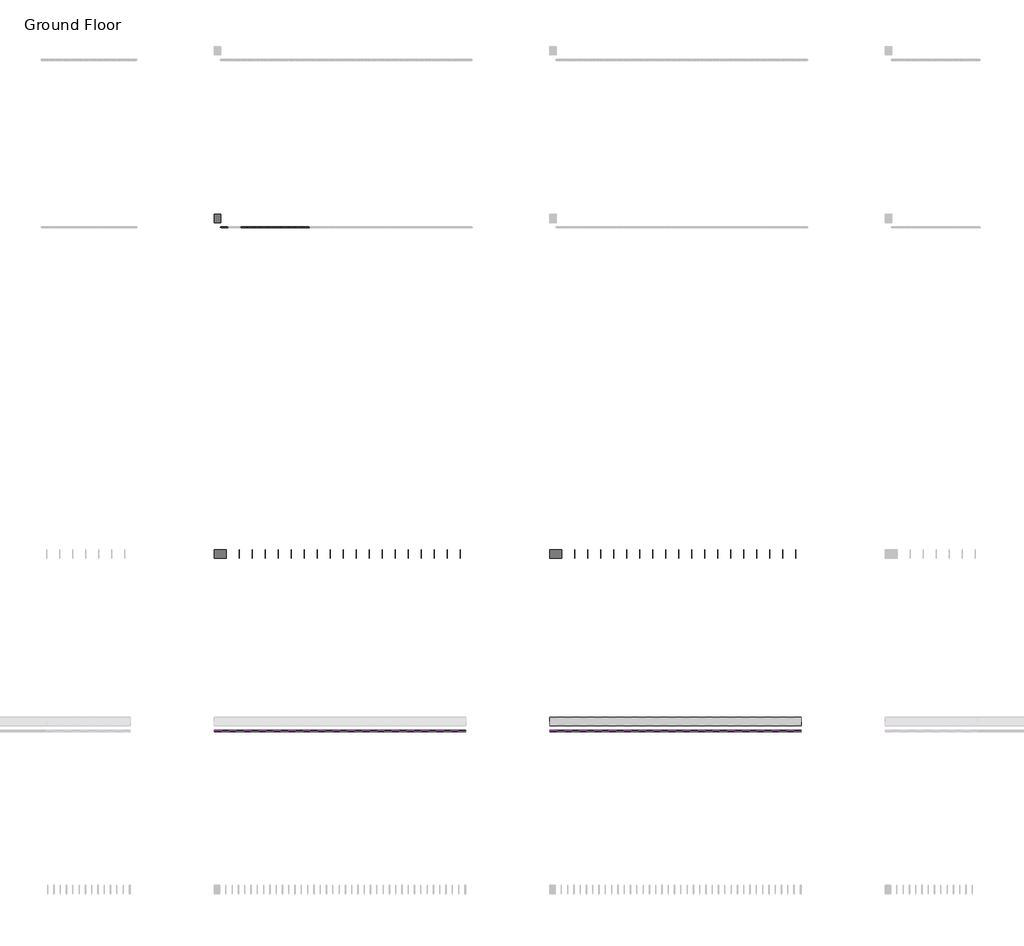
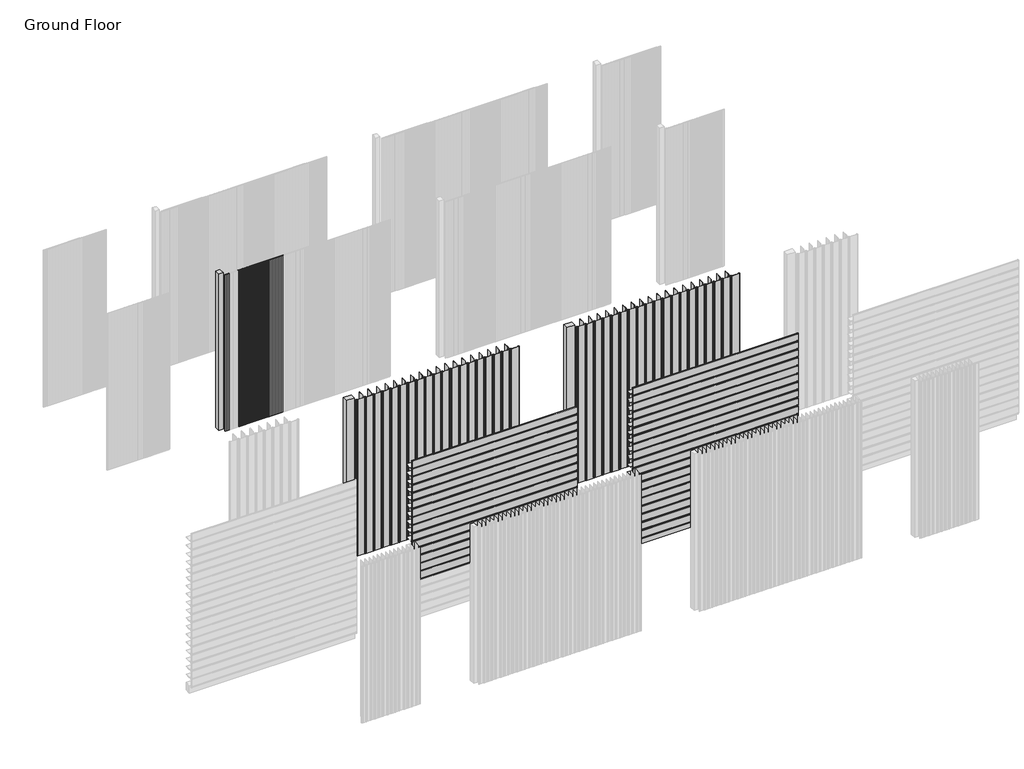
# One storey, part 39 of 350: 83 members, 58 plates.
"""IFC4 building model written with IfcOpenShell, lengths in millimetres."""

from ifc_helpers import new_model, si_unit, origin, place, context, project, spatial, transform, mapped, element, save
from components import rectangular_mullion_a9feb706, rectangular_mullion_4aa68164, empty_system_panel_empty_02c6fd44, empty_system_panel_empty_27b459cb, empty_system_panel_empty_b4bf5bb1, empty_system_panel_empty_81d7e91e, empty_system_panel_empty_cbd4e42b

model = new_model("IFC4")

# Units and contexts
model_context = context("Model", 3, world=origin())
ifc_project = project(units=[si_unit("LENGTHUNIT", "METRE", prefix="MILLI")], contexts=[model_context])

# Site, building, storey
site = spatial("IfcSite", under=ifc_project)
building = spatial("IfcBuilding", under=site)
storey = spatial("IfcBuildingStorey", under=building, Name="Ground Floor", Elevation=0.0)

# Members
placement = place(None, origin())
rectangular_mullion_shape = rectangular_mullion_a9feb706(model_context)
element("IfcMember", 1, ObjectType="Rectangular Mullion : Cladding_Aluminium_Modinex_AluSelekta_Channel_155_TasmanianOak", at=placement, inside=storey, context=model_context, shape_type="MappedRepresentation", body=[
    mapped(rectangular_mullion_shape, transform((47916.4361639, 16968.2978302, 155.0), x_axis=(0.0, 0.0, 1.0), y_axis=(0.0, -1.0, 0.0), z_axis=(1.0, 0.0, 0.0))),
])
element("IfcMember", 2, ObjectType="Rectangular Mullion : Cladding_Aluminium_Modinex_AluSelekta_Channel_155_TasmanianOak", at=placement, inside=storey, context=model_context, shape_type="MappedRepresentation", body=[
    mapped(rectangular_mullion_shape, transform((47916.4361639, 16968.2978302, 310.0), x_axis=(0.0, 0.0, 1.0), y_axis=(0.0, -1.0, 0.0), z_axis=(1.0, 0.0, 0.0))),
])
element("IfcMember", 3, ObjectType="Rectangular Mullion : Cladding_Aluminium_Modinex_AluSelekta_Channel_155_TasmanianOak", at=placement, inside=storey, context=model_context, shape_type="MappedRepresentation", body=[
    mapped(rectangular_mullion_shape, transform((47916.4361639, 16968.2978302, 465.0), x_axis=(0.0, 0.0, 1.0), y_axis=(0.0, -1.0, 0.0), z_axis=(1.0, 0.0, 0.0))),
])
element("IfcMember", 4, ObjectType="Rectangular Mullion : Cladding_Aluminium_Modinex_AluSelekta_Channel_155_TasmanianOak", at=placement, inside=storey, context=model_context, shape_type="MappedRepresentation", body=[
    mapped(rectangular_mullion_shape, transform((47916.4361639, 16968.2978302, 620.0), x_axis=(0.0, 0.0, 1.0), y_axis=(0.0, -1.0, 0.0), z_axis=(1.0, 0.0, 0.0))),
])
element("IfcMember", 5, ObjectType="Rectangular Mullion : Cladding_Aluminium_Modinex_AluSelekta_Channel_155_TasmanianOak", at=placement, inside=storey, context=model_context, shape_type="MappedRepresentation", body=[
    mapped(rectangular_mullion_shape, transform((47916.4361639, 16968.2978302, 775.0), x_axis=(0.0, 0.0, 1.0), y_axis=(0.0, -1.0, 0.0), z_axis=(1.0, 0.0, 0.0))),
])
element("IfcMember", 6, ObjectType="Rectangular Mullion : Cladding_Aluminium_Modinex_AluSelekta_Channel_155_TasmanianOak", at=placement, inside=storey, context=model_context, shape_type="MappedRepresentation", body=[
    mapped(rectangular_mullion_shape, transform((47916.4361639, 16968.2978302, 930.0), x_axis=(0.0, 0.0, 1.0), y_axis=(0.0, -1.0, 0.0), z_axis=(1.0, 0.0, 0.0))),
])
element("IfcMember", 7, ObjectType="Rectangular Mullion : Cladding_Aluminium_Modinex_AluSelekta_Channel_155_TasmanianOak", at=placement, inside=storey, context=model_context, shape_type="MappedRepresentation", body=[
    mapped(rectangular_mullion_shape, transform((47916.4361639, 16968.2978302, 1085.0), x_axis=(0.0, 0.0, 1.0), y_axis=(0.0, -1.0, 0.0), z_axis=(1.0, 0.0, 0.0))),
])
element("IfcMember", 8, ObjectType="Rectangular Mullion : Cladding_Aluminium_Modinex_AluSelekta_Channel_155_TasmanianOak", at=placement, inside=storey, context=model_context, shape_type="MappedRepresentation", body=[
    mapped(rectangular_mullion_shape, transform((47916.4361639, 16968.2978302, 1240.0), x_axis=(0.0, 0.0, 1.0), y_axis=(0.0, -1.0, 0.0), z_axis=(1.0, 0.0, 0.0))),
])
element("IfcMember", 9, ObjectType="Rectangular Mullion : Cladding_Aluminium_Modinex_AluSelekta_Channel_155_TasmanianOak", at=placement, inside=storey, context=model_context, shape_type="MappedRepresentation", body=[
    mapped(rectangular_mullion_shape, transform((47916.4361639, 16968.2978302, 1395.0), x_axis=(0.0, 0.0, 1.0), y_axis=(0.0, -1.0, 0.0), z_axis=(1.0, 0.0, 0.0))),
])
element("IfcMember", 10, ObjectType="Rectangular Mullion : Cladding_Aluminium_Modinex_AluSelekta_Channel_155_TasmanianOak", at=placement, inside=storey, context=model_context, shape_type="MappedRepresentation", body=[
    mapped(rectangular_mullion_shape, transform((47916.4361639, 16968.2978302, 1550.0), x_axis=(0.0, 0.0, 1.0), y_axis=(0.0, -1.0, 0.0), z_axis=(1.0, 0.0, 0.0))),
])
element("IfcMember", 11, ObjectType="Rectangular Mullion : Cladding_Aluminium_Modinex_AluSelekta_Channel_155_TasmanianOak", at=placement, inside=storey, context=model_context, shape_type="MappedRepresentation", body=[
    mapped(rectangular_mullion_shape, transform((47916.4361639, 16968.2978302, 1705.0), x_axis=(0.0, 0.0, 1.0), y_axis=(0.0, -1.0, 0.0), z_axis=(1.0, 0.0, 0.0))),
])
element("IfcMember", 12, ObjectType="Rectangular Mullion : Cladding_Aluminium_Modinex_AluSelekta_Channel_155_TasmanianOak", at=placement, inside=storey, context=model_context, shape_type="MappedRepresentation", body=[
    mapped(rectangular_mullion_shape, transform((47916.4361639, 16968.2978302, 1860.0), x_axis=(0.0, 0.0, 1.0), y_axis=(0.0, -1.0, 0.0), z_axis=(1.0, 0.0, 0.0))),
])
element("IfcMember", 13, ObjectType="Rectangular Mullion : Cladding_Aluminium_Modinex_AluSelekta_Channel_155_TasmanianOak", at=placement, inside=storey, context=model_context, shape_type="MappedRepresentation", body=[
    mapped(rectangular_mullion_shape, transform((47916.4361639, 16968.2978302, 2015.0), x_axis=(0.0, 0.0, 1.0), y_axis=(0.0, -1.0, 0.0), z_axis=(1.0, 0.0, 0.0))),
])
element("IfcMember", 14, ObjectType="Rectangular Mullion : Cladding_Aluminium_Modinex_AluSelekta_Channel_155_TasmanianOak", at=placement, inside=storey, context=model_context, shape_type="MappedRepresentation", body=[
    mapped(rectangular_mullion_shape, transform((47916.4361639, 16968.2978302, 2170.0), x_axis=(0.0, 0.0, 1.0), y_axis=(0.0, -1.0, 0.0), z_axis=(1.0, 0.0, 0.0))),
])
element("IfcMember", 15, ObjectType="Rectangular Mullion : Cladding_Aluminium_Modinex_AluSelekta_Channel_155_TasmanianOak", at=placement, inside=storey, context=model_context, shape_type="MappedRepresentation", body=[
    mapped(rectangular_mullion_shape, transform((47916.4361639, 16968.2978302, 2325.0), x_axis=(0.0, 0.0, 1.0), y_axis=(0.0, -1.0, 0.0), z_axis=(1.0, 0.0, 0.0))),
])
element("IfcMember", 16, ObjectType="Rectangular Mullion : Cladding_Aluminium_Modinex_AluSelekta_Channel_155_TasmanianOak", at=placement, inside=storey, context=model_context, shape_type="MappedRepresentation", body=[
    mapped(rectangular_mullion_shape, transform((47916.4361639, 16968.2978302, 2480.0), x_axis=(0.0, 0.0, 1.0), y_axis=(0.0, -1.0, 0.0), z_axis=(1.0, 0.0, 0.0))),
])
element("IfcMember", 17, ObjectType="Rectangular Mullion : Cladding_Aluminium_Modinex_AluSelekta_Channel_155_TasmanianOak", at=placement, inside=storey, context=model_context, shape_type="MappedRepresentation", body=[
    mapped(rectangular_mullion_shape, transform((47916.4361639, 16968.2978302, 2635.0), x_axis=(0.0, 0.0, 1.0), y_axis=(0.0, -1.0, 0.0), z_axis=(1.0, 0.0, 0.0))),
])
element("IfcMember", 18, ObjectType="Rectangular Mullion : Cladding_Aluminium_Modinex_AluSelekta_Channel_155_TasmanianOak", at=placement, inside=storey, context=model_context, shape_type="MappedRepresentation", body=[
    mapped(rectangular_mullion_shape, transform((47916.4361639, 16968.2978302, 2790.0), x_axis=(0.0, 0.0, 1.0), y_axis=(0.0, -1.0, 0.0), z_axis=(1.0, 0.0, 0.0))),
])
element("IfcMember", 19, ObjectType="Rectangular Mullion : Cladding_Aluminium_Modinex_AluSelekta_Channel_155_TasmanianOak", at=placement, inside=storey, context=model_context, shape_type="MappedRepresentation", body=[
    mapped(rectangular_mullion_shape, transform((47916.4361639, 16968.2978302, 2945.0), x_axis=(0.0, 0.0, 1.0), y_axis=(0.0, -1.0, 0.0), z_axis=(1.0, 0.0, 0.0))),
])
element("IfcMember", 20, ObjectType="Rectangular Mullion : Cladding_Aluminium_Modinex_AluSelekta_Channel_155_TasmanianOak", at=placement, inside=storey, context=model_context, shape_type="MappedRepresentation", body=[
    mapped(rectangular_mullion_shape, transform((45226.4361642, 18968.2978302, 0.0), x_axis=(1.0, 0.0, 0.0), y_axis=(0.0, -1.0, 0.0), z_axis=(0.0, 0.0, -1.0))),
])
element("IfcMember", 21, ObjectType="Rectangular Mullion : Cladding_Aluminium_Modinex_AluSelekta_Channel_155_TasmanianOak", at=placement, inside=storey, context=model_context, shape_type="MappedRepresentation", body=[
    mapped(rectangular_mullion_shape, transform((45381.4361642, 18968.2978302, 0.0), x_axis=(1.0, 0.0, 0.0), y_axis=(0.0, -1.0, 0.0), z_axis=(0.0, 0.0, -1.0))),
])
element("IfcMember", 22, ObjectType="Rectangular Mullion : Cladding_Aluminium_Modinex_AluSelekta_Channel_155_TasmanianOak", at=placement, inside=storey, context=model_context, shape_type="MappedRepresentation", body=[
    mapped(rectangular_mullion_shape, transform((45536.4361642, 18968.2978302, 0.0), x_axis=(1.0, 0.0, 0.0), y_axis=(0.0, -1.0, 0.0), z_axis=(0.0, 0.0, -1.0))),
])
element("IfcMember", 23, ObjectType="Rectangular Mullion : Cladding_Aluminium_Modinex_AluSelekta_Channel_155_TasmanianOak", at=placement, inside=storey, context=model_context, shape_type="MappedRepresentation", body=[
    mapped(rectangular_mullion_shape, transform((45691.4361642, 18968.2978302, 0.0), x_axis=(1.0, 0.0, 0.0), y_axis=(0.0, -1.0, 0.0), z_axis=(0.0, 0.0, -1.0))),
])
element("IfcMember", 24, ObjectType="Rectangular Mullion : Cladding_Aluminium_Modinex_AluSelekta_Channel_155_TasmanianOak", at=placement, inside=storey, context=model_context, shape_type="MappedRepresentation", body=[
    mapped(rectangular_mullion_shape, transform((45846.4361642, 18968.2978302, 0.0), x_axis=(1.0, 0.0, 0.0), y_axis=(0.0, -1.0, 0.0), z_axis=(0.0, 0.0, -1.0))),
])
element("IfcMember", 25, ObjectType="Rectangular Mullion : Cladding_Aluminium_Modinex_AluSelekta_Channel_155_TasmanianOak", at=placement, inside=storey, context=model_context, shape_type="MappedRepresentation", body=[
    mapped(rectangular_mullion_shape, transform((46001.4361642, 18968.2978302, 0.0), x_axis=(1.0, 0.0, 0.0), y_axis=(0.0, -1.0, 0.0), z_axis=(0.0, 0.0, -1.0))),
])
element("IfcMember", 26, ObjectType="Rectangular Mullion : Cladding_Aluminium_Modinex_AluSelekta_Channel_155_TasmanianOak", at=placement, inside=storey, context=model_context, shape_type="MappedRepresentation", body=[
    mapped(rectangular_mullion_shape, transform((46156.4361642, 18968.2978302, 0.0), x_axis=(1.0, 0.0, 0.0), y_axis=(0.0, -1.0, 0.0), z_axis=(0.0, 0.0, -1.0))),
])
element("IfcMember", 27, ObjectType="Rectangular Mullion : Cladding_Aluminium_Modinex_AluSelekta_Channel_155_TasmanianOak", at=placement, inside=storey, context=model_context, shape_type="MappedRepresentation", body=[
    mapped(rectangular_mullion_shape, transform((46311.4361642, 18968.2978302, 0.0), x_axis=(1.0, 0.0, 0.0), y_axis=(0.0, -1.0, 0.0), z_axis=(0.0, 0.0, -1.0))),
])
element("IfcMember", 28, ObjectType="Rectangular Mullion : Cladding_Aluminium_Modinex_AluSelekta_Channel_155_TasmanianOak", at=placement, inside=storey, context=model_context, shape_type="MappedRepresentation", body=[
    mapped(rectangular_mullion_shape, transform((46466.4361642, 18968.2978302, 0.0), x_axis=(1.0, 0.0, 0.0), y_axis=(0.0, -1.0, 0.0), z_axis=(0.0, 0.0, -1.0))),
])
element("IfcMember", 29, ObjectType="Rectangular Mullion : Cladding_Aluminium_Modinex_AluSelekta_Channel_155_TasmanianOak", at=placement, inside=storey, context=model_context, shape_type="MappedRepresentation", body=[
    mapped(rectangular_mullion_shape, transform((46621.4361642, 18968.2978302, 0.0), x_axis=(1.0, 0.0, 0.0), y_axis=(0.0, -1.0, 0.0), z_axis=(0.0, 0.0, -1.0))),
])
element("IfcMember", 30, ObjectType="Rectangular Mullion : Cladding_Aluminium_Modinex_AluSelekta_Channel_155_TasmanianOak", at=placement, inside=storey, context=model_context, shape_type="MappedRepresentation", body=[
    mapped(rectangular_mullion_shape, transform((46776.4361642, 18968.2978302, 0.0), x_axis=(1.0, 0.0, 0.0), y_axis=(0.0, -1.0, 0.0), z_axis=(0.0, 0.0, -1.0))),
])
element("IfcMember", 31, ObjectType="Rectangular Mullion : Cladding_Aluminium_Modinex_AluSelekta_Channel_155_TasmanianOak", at=placement, inside=storey, context=model_context, shape_type="MappedRepresentation", body=[
    mapped(rectangular_mullion_shape, transform((46931.4361642, 18968.2978302, 0.0), x_axis=(1.0, 0.0, 0.0), y_axis=(0.0, -1.0, 0.0), z_axis=(0.0, 0.0, -1.0))),
])
element("IfcMember", 32, ObjectType="Rectangular Mullion : Cladding_Aluminium_Modinex_AluSelekta_Channel_155_TasmanianOak", at=placement, inside=storey, context=model_context, shape_type="MappedRepresentation", body=[
    mapped(rectangular_mullion_shape, transform((47086.4361642, 18968.2978302, 0.0), x_axis=(1.0, 0.0, 0.0), y_axis=(0.0, -1.0, 0.0), z_axis=(0.0, 0.0, -1.0))),
])
element("IfcMember", 33, ObjectType="Rectangular Mullion : Cladding_Aluminium_Modinex_AluSelekta_Channel_155_TasmanianOak", at=placement, inside=storey, context=model_context, shape_type="MappedRepresentation", body=[
    mapped(rectangular_mullion_shape, transform((47241.4361642, 18968.2978302, 0.0), x_axis=(1.0, 0.0, 0.0), y_axis=(0.0, -1.0, 0.0), z_axis=(0.0, 0.0, -1.0))),
])
element("IfcMember", 34, ObjectType="Rectangular Mullion : Cladding_Aluminium_Modinex_AluSelekta_Channel_155_TasmanianOak", at=placement, inside=storey, context=model_context, shape_type="MappedRepresentation", body=[
    mapped(rectangular_mullion_shape, transform((47396.4361642, 18968.2978302, 0.0), x_axis=(1.0, 0.0, 0.0), y_axis=(0.0, -1.0, 0.0), z_axis=(0.0, 0.0, -1.0))),
])
element("IfcMember", 35, ObjectType="Rectangular Mullion : Cladding_Aluminium_Modinex_AluSelekta_Channel_155_TasmanianOak", at=placement, inside=storey, context=model_context, shape_type="MappedRepresentation", body=[
    mapped(rectangular_mullion_shape, transform((47551.4361642, 18968.2978302, 0.0), x_axis=(1.0, 0.0, 0.0), y_axis=(0.0, -1.0, 0.0), z_axis=(0.0, 0.0, -1.0))),
])
element("IfcMember", 36, ObjectType="Rectangular Mullion : Cladding_Aluminium_Modinex_AluSelekta_Channel_155_TasmanianOak", at=placement, inside=storey, context=model_context, shape_type="MappedRepresentation", body=[
    mapped(rectangular_mullion_shape, transform((47706.4361642, 18968.2978302, 0.0), x_axis=(1.0, 0.0, 0.0), y_axis=(0.0, -1.0, 0.0), z_axis=(0.0, 0.0, -1.0))),
])
element("IfcMember", 37, ObjectType="Rectangular Mullion : Cladding_Aluminium_Modinex_AluSelekta_Channel_155_TasmanianOak", at=placement, inside=storey, context=model_context, shape_type="MappedRepresentation", body=[
    mapped(rectangular_mullion_shape, transform((47861.4361642, 18968.2978302, 0.0), x_axis=(1.0, 0.0, 0.0), y_axis=(0.0, -1.0, 0.0), z_axis=(0.0, 0.0, -1.0))),
])
element("IfcMember", 38, ObjectType="Rectangular Mullion : Cladding_Aluminium_Modinex_AluSelekta_Channel_155_TasmanianOak", at=placement, inside=storey, context=model_context, shape_type="MappedRepresentation", body=[
    mapped(rectangular_mullion_shape, transform((45071.4361642, 18968.2978302, 0.0), x_axis=(1.0, 0.0, 0.0), y_axis=(0.0, -1.0, 0.0), z_axis=(0.0, 0.0, -1.0))),
])
element("IfcMember", 39, ObjectType="Rectangular Mullion : Cladding_Aluminium_Modinex_AluSelekta_Channel_155_SpottedGum", at=placement, inside=storey, context=model_context, shape_type="MappedRepresentation", body=[
    mapped(rectangular_mullion_shape, transform((43916.4361639, 16968.2978302, 775.0), x_axis=(0.0, 0.0, 1.0), y_axis=(0.0, -1.0, 0.0), z_axis=(1.0, 0.0, 0.0))),
])
element("IfcMember", 40, ObjectType="Rectangular Mullion : Cladding_Aluminium_Modinex_AluSelekta_Channel_155_SpottedGum", at=placement, inside=storey, context=model_context, shape_type="MappedRepresentation", body=[
    mapped(rectangular_mullion_shape, transform((43916.4361639, 16968.2978302, 930.0), x_axis=(0.0, 0.0, 1.0), y_axis=(0.0, -1.0, 0.0), z_axis=(1.0, 0.0, 0.0))),
])
element("IfcMember", 41, ObjectType="Rectangular Mullion : Cladding_Aluminium_Modinex_AluSelekta_Channel_155_SpottedGum", at=placement, inside=storey, context=model_context, shape_type="MappedRepresentation", body=[
    mapped(rectangular_mullion_shape, transform((43916.4361639, 16968.2978302, 1085.0), x_axis=(0.0, 0.0, 1.0), y_axis=(0.0, -1.0, 0.0), z_axis=(1.0, 0.0, 0.0))),
])
element("IfcMember", 42, ObjectType="Rectangular Mullion : Cladding_Aluminium_Modinex_AluSelekta_Channel_155_SpottedGum", at=placement, inside=storey, context=model_context, shape_type="MappedRepresentation", body=[
    mapped(rectangular_mullion_shape, transform((43916.4361639, 16968.2978302, 1240.0), x_axis=(0.0, 0.0, 1.0), y_axis=(0.0, -1.0, 0.0), z_axis=(1.0, 0.0, 0.0))),
])
element("IfcMember", 43, ObjectType="Rectangular Mullion : Cladding_Aluminium_Modinex_AluSelekta_Channel_155_SpottedGum", at=placement, inside=storey, context=model_context, shape_type="MappedRepresentation", body=[
    mapped(rectangular_mullion_shape, transform((43916.4361639, 16968.2978302, 1395.0), x_axis=(0.0, 0.0, 1.0), y_axis=(0.0, -1.0, 0.0), z_axis=(1.0, 0.0, 0.0))),
])
element("IfcMember", 44, ObjectType="Rectangular Mullion : Cladding_Aluminium_Modinex_AluSelekta_Channel_155_SpottedGum", at=placement, inside=storey, context=model_context, shape_type="MappedRepresentation", body=[
    mapped(rectangular_mullion_shape, transform((43916.4361639, 16968.2978302, 1550.0), x_axis=(0.0, 0.0, 1.0), y_axis=(0.0, -1.0, 0.0), z_axis=(1.0, 0.0, 0.0))),
])
element("IfcMember", 45, ObjectType="Rectangular Mullion : Cladding_Aluminium_Modinex_AluSelekta_Channel_155_SpottedGum", at=placement, inside=storey, context=model_context, shape_type="MappedRepresentation", body=[
    mapped(rectangular_mullion_shape, transform((43916.4361639, 16968.2978302, 1705.0), x_axis=(0.0, 0.0, 1.0), y_axis=(0.0, -1.0, 0.0), z_axis=(1.0, 0.0, 0.0))),
])
element("IfcMember", 46, ObjectType="Rectangular Mullion : Cladding_Aluminium_Modinex_AluSelekta_Channel_155_SpottedGum", at=placement, inside=storey, context=model_context, shape_type="MappedRepresentation", body=[
    mapped(rectangular_mullion_shape, transform((43916.4361639, 16968.2978302, 1860.0), x_axis=(0.0, 0.0, 1.0), y_axis=(0.0, -1.0, 0.0), z_axis=(1.0, 0.0, 0.0))),
])
element("IfcMember", 47, ObjectType="Rectangular Mullion : Cladding_Aluminium_Modinex_AluSelekta_Channel_155_SpottedGum", at=placement, inside=storey, context=model_context, shape_type="MappedRepresentation", body=[
    mapped(rectangular_mullion_shape, transform((43916.4361639, 16968.2978302, 2015.0), x_axis=(0.0, 0.0, 1.0), y_axis=(0.0, -1.0, 0.0), z_axis=(1.0, 0.0, 0.0))),
])
element("IfcMember", 48, ObjectType="Rectangular Mullion : Cladding_Aluminium_Modinex_AluSelekta_Channel_155_SpottedGum", at=placement, inside=storey, context=model_context, shape_type="MappedRepresentation", body=[
    mapped(rectangular_mullion_shape, transform((43916.4361639, 16968.2978302, 2170.0), x_axis=(0.0, 0.0, 1.0), y_axis=(0.0, -1.0, 0.0), z_axis=(1.0, 0.0, 0.0))),
])
element("IfcMember", 49, ObjectType="Rectangular Mullion : Cladding_Aluminium_Modinex_AluSelekta_Channel_155_SpottedGum", at=placement, inside=storey, context=model_context, shape_type="MappedRepresentation", body=[
    mapped(rectangular_mullion_shape, transform((43916.4361639, 16968.2978302, 2325.0), x_axis=(0.0, 0.0, 1.0), y_axis=(0.0, -1.0, 0.0), z_axis=(1.0, 0.0, 0.0))),
])
element("IfcMember", 50, ObjectType="Rectangular Mullion : Cladding_Aluminium_Modinex_AluSelekta_Channel_155_SpottedGum", at=placement, inside=storey, context=model_context, shape_type="MappedRepresentation", body=[
    mapped(rectangular_mullion_shape, transform((43916.4361639, 16968.2978302, 2480.0), x_axis=(0.0, 0.0, 1.0), y_axis=(0.0, -1.0, 0.0), z_axis=(1.0, 0.0, 0.0))),
])
element("IfcMember", 51, ObjectType="Rectangular Mullion : Cladding_Aluminium_Modinex_AluSelekta_Channel_155_SpottedGum", at=placement, inside=storey, context=model_context, shape_type="MappedRepresentation", body=[
    mapped(rectangular_mullion_shape, transform((43916.4361639, 16968.2978302, 2635.0), x_axis=(0.0, 0.0, 1.0), y_axis=(0.0, -1.0, 0.0), z_axis=(1.0, 0.0, 0.0))),
])
element("IfcMember", 52, ObjectType="Rectangular Mullion : Cladding_Aluminium_Modinex_AluSelekta_Channel_155_SpottedGum", at=placement, inside=storey, context=model_context, shape_type="MappedRepresentation", body=[
    mapped(rectangular_mullion_shape, transform((43916.4361639, 16968.2978302, 2790.0), x_axis=(0.0, 0.0, 1.0), y_axis=(0.0, -1.0, 0.0), z_axis=(1.0, 0.0, 0.0))),
])
element("IfcMember", 53, ObjectType="Rectangular Mullion : Cladding_Aluminium_Modinex_AluSelekta_Channel_155_SpottedGum", at=placement, inside=storey, context=model_context, shape_type="MappedRepresentation", body=[
    mapped(rectangular_mullion_shape, transform((43916.4361639, 16968.2978302, 2945.0), x_axis=(0.0, 0.0, 1.0), y_axis=(0.0, -1.0, 0.0), z_axis=(1.0, 0.0, 0.0))),
])
element("IfcMember", 54, ObjectType="Rectangular Mullion : Cladding_Aluminium_Modinex_AluSelekta_Channel_155_SpottedGum", at=placement, inside=storey, context=model_context, shape_type="MappedRepresentation", body=[
    mapped(rectangular_mullion_shape, transform((41226.4361642, 18968.2978302, 0.0), x_axis=(1.0, 0.0, 0.0), y_axis=(0.0, -1.0, 0.0), z_axis=(0.0, 0.0, -1.0))),
])
element("IfcMember", 55, ObjectType="Rectangular Mullion : Cladding_Aluminium_Modinex_AluSelekta_Channel_155_SpottedGum", at=placement, inside=storey, context=model_context, shape_type="MappedRepresentation", body=[
    mapped(rectangular_mullion_shape, transform((41381.4361642, 18968.2978302, 0.0), x_axis=(1.0, 0.0, 0.0), y_axis=(0.0, -1.0, 0.0), z_axis=(0.0, 0.0, -1.0))),
])
element("IfcMember", 56, ObjectType="Rectangular Mullion : Cladding_Aluminium_Modinex_AluSelekta_Channel_155_SpottedGum", at=placement, inside=storey, context=model_context, shape_type="MappedRepresentation", body=[
    mapped(rectangular_mullion_shape, transform((41536.4361642, 18968.2978302, 0.0), x_axis=(1.0, 0.0, 0.0), y_axis=(0.0, -1.0, 0.0), z_axis=(0.0, 0.0, -1.0))),
])
element("IfcMember", 57, ObjectType="Rectangular Mullion : Cladding_Aluminium_Modinex_AluSelekta_Channel_155_SpottedGum", at=placement, inside=storey, context=model_context, shape_type="MappedRepresentation", body=[
    mapped(rectangular_mullion_shape, transform((41691.4361642, 18968.2978302, 0.0), x_axis=(1.0, 0.0, 0.0), y_axis=(0.0, -1.0, 0.0), z_axis=(0.0, 0.0, -1.0))),
])
element("IfcMember", 58, ObjectType="Rectangular Mullion : Cladding_Aluminium_Modinex_AluSelekta_Channel_155_SpottedGum", at=placement, inside=storey, context=model_context, shape_type="MappedRepresentation", body=[
    mapped(rectangular_mullion_shape, transform((41846.4361642, 18968.2978302, 0.0), x_axis=(1.0, 0.0, 0.0), y_axis=(0.0, -1.0, 0.0), z_axis=(0.0, 0.0, -1.0))),
])
element("IfcMember", 59, ObjectType="Rectangular Mullion : Cladding_Aluminium_Modinex_AluSelekta_Channel_155_SpottedGum", at=placement, inside=storey, context=model_context, shape_type="MappedRepresentation", body=[
    mapped(rectangular_mullion_shape, transform((42001.4361642, 18968.2978302, 0.0), x_axis=(1.0, 0.0, 0.0), y_axis=(0.0, -1.0, 0.0), z_axis=(0.0, 0.0, -1.0))),
])
element("IfcMember", 60, ObjectType="Rectangular Mullion : Cladding_Aluminium_Modinex_AluSelekta_Channel_155_SpottedGum", at=placement, inside=storey, context=model_context, shape_type="MappedRepresentation", body=[
    mapped(rectangular_mullion_shape, transform((42156.4361642, 18968.2978302, 0.0), x_axis=(1.0, 0.0, 0.0), y_axis=(0.0, -1.0, 0.0), z_axis=(0.0, 0.0, -1.0))),
])
element("IfcMember", 61, ObjectType="Rectangular Mullion : Cladding_Aluminium_Modinex_AluSelekta_Channel_155_SpottedGum", at=placement, inside=storey, context=model_context, shape_type="MappedRepresentation", body=[
    mapped(rectangular_mullion_shape, transform((42311.4361642, 18968.2978302, 0.0), x_axis=(1.0, 0.0, 0.0), y_axis=(0.0, -1.0, 0.0), z_axis=(0.0, 0.0, -1.0))),
])
element("IfcMember", 62, ObjectType="Rectangular Mullion : Cladding_Aluminium_Modinex_AluSelekta_Channel_155_SpottedGum", at=placement, inside=storey, context=model_context, shape_type="MappedRepresentation", body=[
    mapped(rectangular_mullion_shape, transform((42466.4361642, 18968.2978302, 0.0), x_axis=(1.0, 0.0, 0.0), y_axis=(0.0, -1.0, 0.0), z_axis=(0.0, 0.0, -1.0))),
])
element("IfcMember", 63, ObjectType="Rectangular Mullion : Cladding_Aluminium_Modinex_AluSelekta_Channel_155_SpottedGum", at=placement, inside=storey, context=model_context, shape_type="MappedRepresentation", body=[
    mapped(rectangular_mullion_shape, transform((42621.4361642, 18968.2978302, 0.0), x_axis=(1.0, 0.0, 0.0), y_axis=(0.0, -1.0, 0.0), z_axis=(0.0, 0.0, -1.0))),
])
element("IfcMember", 64, ObjectType="Rectangular Mullion : Cladding_Aluminium_Modinex_AluSelekta_Channel_155_SpottedGum", at=placement, inside=storey, context=model_context, shape_type="MappedRepresentation", body=[
    mapped(rectangular_mullion_shape, transform((42776.4361642, 18968.2978302, 0.0), x_axis=(1.0, 0.0, 0.0), y_axis=(0.0, -1.0, 0.0), z_axis=(0.0, 0.0, -1.0))),
])
element("IfcMember", 65, ObjectType="Rectangular Mullion : Cladding_Aluminium_Modinex_AluSelekta_Channel_155_SpottedGum", at=placement, inside=storey, context=model_context, shape_type="MappedRepresentation", body=[
    mapped(rectangular_mullion_shape, transform((42931.4361642, 18968.2978302, 0.0), x_axis=(1.0, 0.0, 0.0), y_axis=(0.0, -1.0, 0.0), z_axis=(0.0, 0.0, -1.0))),
])
element("IfcMember", 66, ObjectType="Rectangular Mullion : Cladding_Aluminium_Modinex_AluSelekta_Channel_155_SpottedGum", at=placement, inside=storey, context=model_context, shape_type="MappedRepresentation", body=[
    mapped(rectangular_mullion_shape, transform((43086.4361642, 18968.2978302, 0.0), x_axis=(1.0, 0.0, 0.0), y_axis=(0.0, -1.0, 0.0), z_axis=(0.0, 0.0, -1.0))),
])
element("IfcMember", 67, ObjectType="Rectangular Mullion : Cladding_Aluminium_Modinex_AluSelekta_Channel_155_SpottedGum", at=placement, inside=storey, context=model_context, shape_type="MappedRepresentation", body=[
    mapped(rectangular_mullion_shape, transform((43241.4361642, 18968.2978302, 0.0), x_axis=(1.0, 0.0, 0.0), y_axis=(0.0, -1.0, 0.0), z_axis=(0.0, 0.0, -1.0))),
])
element("IfcMember", 68, ObjectType="Rectangular Mullion : Cladding_Aluminium_Modinex_AluSelekta_Channel_155_SpottedGum", at=placement, inside=storey, context=model_context, shape_type="MappedRepresentation", body=[
    mapped(rectangular_mullion_shape, transform((43396.4361642, 18968.2978302, 0.0), x_axis=(1.0, 0.0, 0.0), y_axis=(0.0, -1.0, 0.0), z_axis=(0.0, 0.0, -1.0))),
])
element("IfcMember", 69, ObjectType="Rectangular Mullion : Cladding_Aluminium_Modinex_AluSelekta_Channel_155_SpottedGum", at=placement, inside=storey, context=model_context, shape_type="MappedRepresentation", body=[
    mapped(rectangular_mullion_shape, transform((43551.4361642, 18968.2978302, 0.0), x_axis=(1.0, 0.0, 0.0), y_axis=(0.0, -1.0, 0.0), z_axis=(0.0, 0.0, -1.0))),
])
element("IfcMember", 70, ObjectType="Rectangular Mullion : Cladding_Aluminium_Modinex_AluSelekta_Channel_155_SpottedGum", at=placement, inside=storey, context=model_context, shape_type="MappedRepresentation", body=[
    mapped(rectangular_mullion_shape, transform((43706.4361642, 18968.2978302, 0.0), x_axis=(1.0, 0.0, 0.0), y_axis=(0.0, -1.0, 0.0), z_axis=(0.0, 0.0, -1.0))),
])
element("IfcMember", 71, ObjectType="Rectangular Mullion : Cladding_Aluminium_Modinex_AluSelekta_Channel_155_SpottedGum", at=placement, inside=storey, context=model_context, shape_type="MappedRepresentation", body=[
    mapped(rectangular_mullion_shape, transform((43861.4361642, 18968.2978302, 0.0), x_axis=(1.0, 0.0, 0.0), y_axis=(0.0, -1.0, 0.0), z_axis=(0.0, 0.0, -1.0))),
])
element("IfcMember", 72, ObjectType="Rectangular Mullion : Cladding_Aluminium_Modinex_AluSelekta_Channel_155_SpottedGum", at=placement, inside=storey, context=model_context, shape_type="MappedRepresentation", body=[
    mapped(rectangular_mullion_shape, transform((41071.4361642, 18968.2978302, 0.0), x_axis=(1.0, 0.0, 0.0), y_axis=(0.0, -1.0, 0.0), z_axis=(0.0, 0.0, -1.0))),
])
rectangular_mullion_2_shape = rectangular_mullion_4aa68164(model_context)
element("IfcMember", 73, ObjectType="Rectangular Mullion : Cladding_Timber_Modinex_Castelation_81x12_Ironbark", at=placement, inside=storey, context=model_context, shape_type="MappedRepresentation", body=[
    mapped(rectangular_mullion_2_shape, transform((41969.4361642, 22968.2978302, 0.0), x_axis=(1.0, 0.0, 0.0), y_axis=(0.0, -1.0, 0.0), z_axis=(0.0, 0.0, -1.0))),
])
element("IfcMember", 74, ObjectType="Rectangular Mullion : Cladding_Timber_Modinex_Castelation_81x12_Ironbark", at=placement, inside=storey, context=model_context, shape_type="MappedRepresentation", body=[
    mapped(rectangular_mullion_2_shape, transform((41888.4361642, 22968.2978302, 0.0), x_axis=(1.0, 0.0, 0.0), y_axis=(0.0, -1.0, 0.0), z_axis=(0.0, 0.0, -1.0))),
])
element("IfcMember", 75, ObjectType="Rectangular Mullion : Cladding_Timber_Modinex_Castelation_81x12_Ironbark", at=placement, inside=storey, context=model_context, shape_type="MappedRepresentation", body=[
    mapped(rectangular_mullion_2_shape, transform((41807.4361642, 22968.2978302, 0.0), x_axis=(1.0, 0.0, 0.0), y_axis=(0.0, -1.0, 0.0), z_axis=(0.0, 0.0, -1.0))),
])
element("IfcMember", 76, ObjectType="Rectangular Mullion : Cladding_Timber_Modinex_Castelation_81x12_Ironbark", at=placement, inside=storey, context=model_context, shape_type="MappedRepresentation", body=[
    mapped(rectangular_mullion_2_shape, transform((41726.4361642, 22968.2978302, 0.0), x_axis=(1.0, 0.0, 0.0), y_axis=(0.0, -1.0, 0.0), z_axis=(0.0, 0.0, -1.0))),
])
element("IfcMember", 77, ObjectType="Rectangular Mullion : Cladding_Timber_Modinex_Castelation_81x12_Ironbark", at=placement, inside=storey, context=model_context, shape_type="MappedRepresentation", body=[
    mapped(rectangular_mullion_2_shape, transform((41645.4361642, 22968.2978302, 0.0), x_axis=(1.0, 0.0, 0.0), y_axis=(0.0, -1.0, 0.0), z_axis=(0.0, 0.0, -1.0))),
])
element("IfcMember", 78, ObjectType="Rectangular Mullion : Cladding_Timber_Modinex_Castelation_81x12_Ironbark", at=placement, inside=storey, context=model_context, shape_type="MappedRepresentation", body=[
    mapped(rectangular_mullion_2_shape, transform((41564.4361642, 22968.2978302, 0.0), x_axis=(1.0, 0.0, 0.0), y_axis=(0.0, -1.0, 0.0), z_axis=(0.0, 0.0, -1.0))),
])
element("IfcMember", 79, ObjectType="Rectangular Mullion : Cladding_Timber_Modinex_Castelation_81x12_Ironbark", at=placement, inside=storey, context=model_context, shape_type="MappedRepresentation", body=[
    mapped(rectangular_mullion_2_shape, transform((41483.4361642, 22968.2978302, 0.0), x_axis=(1.0, 0.0, 0.0), y_axis=(0.0, -1.0, 0.0), z_axis=(0.0, 0.0, -1.0))),
])
element("IfcMember", 80, ObjectType="Rectangular Mullion : Cladding_Timber_Modinex_Castelation_81x12_Ironbark", at=placement, inside=storey, context=model_context, shape_type="MappedRepresentation", body=[
    mapped(rectangular_mullion_2_shape, transform((41402.4361642, 22968.2978302, 0.0), x_axis=(1.0, 0.0, 0.0), y_axis=(0.0, -1.0, 0.0), z_axis=(0.0, 0.0, -1.0))),
])
element("IfcMember", 81, ObjectType="Rectangular Mullion : Cladding_Timber_Modinex_Castelation_81x12_Ironbark", at=placement, inside=storey, context=model_context, shape_type="MappedRepresentation", body=[
    mapped(rectangular_mullion_2_shape, transform((41321.4361642, 22968.2978302, 0.0), x_axis=(1.0, 0.0, 0.0), y_axis=(0.0, -1.0, 0.0), z_axis=(0.0, 0.0, -1.0))),
])
element("IfcMember", 82, ObjectType="Rectangular Mullion : Cladding_Timber_Modinex_Castelation_81x12_Ironbark", at=placement, inside=storey, context=model_context, shape_type="MappedRepresentation", body=[
    mapped(rectangular_mullion_2_shape, transform((41240.4361642, 22968.2978302, 0.0), x_axis=(1.0, 0.0, 0.0), y_axis=(0.0, -1.0, 0.0), z_axis=(0.0, 0.0, -1.0))),
])
element("IfcMember", 83, ObjectType="Rectangular Mullion : Cladding_Timber_Modinex_Castelation_81x12_Ironbark", at=placement, inside=storey, context=model_context, shape_type="MappedRepresentation", body=[
    mapped(rectangular_mullion_2_shape, transform((40997.4361642, 22968.2978302, 0.0), x_axis=(1.0, 0.0, 0.0), y_axis=(0.0, -1.0, 0.0), z_axis=(0.0, 0.0, -1.0))),
])

# Plates
empty_system_panel_empty_shape = empty_system_panel_empty_02c6fd44(model_context)
element("IfcPlate", 84, ObjectType="Empty System Panel : Empty", at=placement, inside=storey, context=model_context, shape_type="MappedRepresentation", body=[
    mapped(empty_system_panel_empty_shape, transform((46416.4361639, 16968.2978302, 297.2580963), x_axis=(1.0, 0.0, 0.0), y_axis=(0.0, 1.0, 0.0), z_axis=(0.0, 0.0, 1.0))),
])
element("IfcPlate", 85, ObjectType="Empty System Panel : Empty", at=placement, inside=storey, context=model_context, shape_type="MappedRepresentation", body=[
    mapped(empty_system_panel_empty_shape, transform((46416.4361639, 16968.2978302, 452.2580963), x_axis=(1.0, 0.0, 0.0), y_axis=(0.0, 1.0, 0.0), z_axis=(0.0, 0.0, 1.0))),
])
element("IfcPlate", 86, ObjectType="Empty System Panel : Empty", at=placement, inside=storey, context=model_context, shape_type="MappedRepresentation", body=[
    mapped(empty_system_panel_empty_shape, transform((46416.4361639, 16968.2978302, 607.2580963), x_axis=(1.0, 0.0, 0.0), y_axis=(0.0, 1.0, 0.0), z_axis=(0.0, 0.0, 1.0))),
])
element("IfcPlate", 87, ObjectType="Empty System Panel : Empty", at=placement, inside=storey, context=model_context, shape_type="MappedRepresentation", body=[
    mapped(empty_system_panel_empty_shape, transform((46416.4361639, 16968.2978302, 762.2580963), x_axis=(1.0, 0.0, 0.0), y_axis=(0.0, 1.0, 0.0), z_axis=(0.0, 0.0, 1.0))),
])
element("IfcPlate", 88, ObjectType="Empty System Panel : Empty", at=placement, inside=storey, context=model_context, shape_type="MappedRepresentation", body=[
    mapped(empty_system_panel_empty_shape, transform((46416.4361639, 16968.2978302, 917.2580963), x_axis=(1.0, 0.0, 0.0), y_axis=(0.0, 1.0, 0.0), z_axis=(0.0, 0.0, 1.0))),
])
element("IfcPlate", 89, ObjectType="Empty System Panel : Empty", at=placement, inside=storey, context=model_context, shape_type="MappedRepresentation", body=[
    mapped(empty_system_panel_empty_shape, transform((46416.4361639, 16968.2978302, 1072.2580963), x_axis=(1.0, 0.0, 0.0), y_axis=(0.0, 1.0, 0.0), z_axis=(0.0, 0.0, 1.0))),
])
element("IfcPlate", 90, ObjectType="Empty System Panel : Empty", at=placement, inside=storey, context=model_context, shape_type="MappedRepresentation", body=[
    mapped(empty_system_panel_empty_shape, transform((46416.4361639, 16968.2978302, 1227.2580963), x_axis=(1.0, 0.0, 0.0), y_axis=(0.0, 1.0, 0.0), z_axis=(0.0, 0.0, 1.0))),
])
element("IfcPlate", 91, ObjectType="Empty System Panel : Empty", at=placement, inside=storey, context=model_context, shape_type="MappedRepresentation", body=[
    mapped(empty_system_panel_empty_shape, transform((46416.4361639, 16968.2978302, 1382.2580963), x_axis=(1.0, 0.0, 0.0), y_axis=(0.0, 1.0, 0.0), z_axis=(0.0, 0.0, 1.0))),
])
element("IfcPlate", 92, ObjectType="Empty System Panel : Empty", at=placement, inside=storey, context=model_context, shape_type="MappedRepresentation", body=[
    mapped(empty_system_panel_empty_shape, transform((46416.4361639, 16968.2978302, 1537.2580963), x_axis=(1.0, 0.0, 0.0), y_axis=(0.0, 1.0, 0.0), z_axis=(0.0, 0.0, 1.0))),
])
element("IfcPlate", 93, ObjectType="Empty System Panel : Empty", at=placement, inside=storey, context=model_context, shape_type="MappedRepresentation", body=[
    mapped(empty_system_panel_empty_shape, transform((46416.4361639, 16968.2978302, 1692.2580963), x_axis=(1.0, 0.0, 0.0), y_axis=(0.0, 1.0, 0.0), z_axis=(0.0, 0.0, 1.0))),
])
element("IfcPlate", 94, ObjectType="Empty System Panel : Empty", at=placement, inside=storey, context=model_context, shape_type="MappedRepresentation", body=[
    mapped(empty_system_panel_empty_shape, transform((46416.4361639, 16968.2978302, 1847.2580963), x_axis=(1.0, 0.0, 0.0), y_axis=(0.0, 1.0, 0.0), z_axis=(0.0, 0.0, 1.0))),
])
element("IfcPlate", 95, ObjectType="Empty System Panel : Empty", at=placement, inside=storey, context=model_context, shape_type="MappedRepresentation", body=[
    mapped(empty_system_panel_empty_shape, transform((46416.4361639, 16968.2978302, 2002.2580963), x_axis=(1.0, 0.0, 0.0), y_axis=(0.0, 1.0, 0.0), z_axis=(0.0, 0.0, 1.0))),
])
element("IfcPlate", 96, ObjectType="Empty System Panel : Empty", at=placement, inside=storey, context=model_context, shape_type="MappedRepresentation", body=[
    mapped(empty_system_panel_empty_shape, transform((46416.4361639, 16968.2978302, 2157.2580963), x_axis=(1.0, 0.0, 0.0), y_axis=(0.0, 1.0, 0.0), z_axis=(0.0, 0.0, 1.0))),
])
element("IfcPlate", 97, ObjectType="Empty System Panel : Empty", at=placement, inside=storey, context=model_context, shape_type="MappedRepresentation", body=[
    mapped(empty_system_panel_empty_shape, transform((46416.4361639, 16968.2978302, 2312.2580963), x_axis=(1.0, 0.0, 0.0), y_axis=(0.0, 1.0, 0.0), z_axis=(0.0, 0.0, 1.0))),
])
element("IfcPlate", 98, ObjectType="Empty System Panel : Empty", at=placement, inside=storey, context=model_context, shape_type="MappedRepresentation", body=[
    mapped(empty_system_panel_empty_shape, transform((46416.4361639, 16968.2978302, 2467.2580963), x_axis=(1.0, 0.0, 0.0), y_axis=(0.0, 1.0, 0.0), z_axis=(0.0, 0.0, 1.0))),
])
element("IfcPlate", 99, ObjectType="Empty System Panel : Empty", at=placement, inside=storey, context=model_context, shape_type="MappedRepresentation", body=[
    mapped(empty_system_panel_empty_shape, transform((46416.4361639, 16968.2978302, 2622.2580963), x_axis=(1.0, 0.0, 0.0), y_axis=(0.0, 1.0, 0.0), z_axis=(0.0, 0.0, 1.0))),
])
element("IfcPlate", 100, ObjectType="Empty System Panel : Empty", at=placement, inside=storey, context=model_context, shape_type="MappedRepresentation", body=[
    mapped(empty_system_panel_empty_shape, transform((46416.4361639, 16968.2978302, 2777.2580963), x_axis=(1.0, 0.0, 0.0), y_axis=(0.0, 1.0, 0.0), z_axis=(0.0, 0.0, 1.0))),
])
element("IfcPlate", 101, ObjectType="Empty System Panel : Empty", at=placement, inside=storey, context=model_context, shape_type="MappedRepresentation", body=[
    mapped(empty_system_panel_empty_shape, transform((46416.4361639, 16968.2978302, 2932.2580963), x_axis=(1.0, 0.0, 0.0), y_axis=(0.0, 1.0, 0.0), z_axis=(0.0, 0.0, 1.0))),
])
empty_system_panel_empty_2_shape = empty_system_panel_empty_27b459cb(model_context)
element("IfcPlate", 102, ObjectType="Empty System Panel : Empty", at=placement, inside=storey, context=model_context, shape_type="MappedRepresentation", body=[
    mapped(empty_system_panel_empty_2_shape, transform((41369.9529326, 18968.2978302, 0.0), x_axis=(1.0, 0.0, 0.0), y_axis=(0.0, 1.0, 0.0), z_axis=(0.0, 0.0, 1.0))),
])
element("IfcPlate", 103, ObjectType="Empty System Panel : Empty", at=placement, inside=storey, context=model_context, shape_type="MappedRepresentation", body=[
    mapped(empty_system_panel_empty_2_shape, transform((41524.9529326, 18968.2978302, 0.0), x_axis=(1.0, 0.0, 0.0), y_axis=(0.0, 1.0, 0.0), z_axis=(0.0, 0.0, 1.0))),
])
element("IfcPlate", 104, ObjectType="Empty System Panel : Empty", at=placement, inside=storey, context=model_context, shape_type="MappedRepresentation", body=[
    mapped(empty_system_panel_empty_2_shape, transform((41679.9529326, 18968.2978302, 0.0), x_axis=(1.0, 0.0, 0.0), y_axis=(0.0, 1.0, 0.0), z_axis=(0.0, 0.0, 1.0))),
])
element("IfcPlate", 105, ObjectType="Empty System Panel : Empty", at=placement, inside=storey, context=model_context, shape_type="MappedRepresentation", body=[
    mapped(empty_system_panel_empty_2_shape, transform((41834.9529326, 18968.2978302, 0.0), x_axis=(1.0, 0.0, 0.0), y_axis=(0.0, 1.0, 0.0), z_axis=(0.0, 0.0, 1.0))),
])
element("IfcPlate", 106, ObjectType="Empty System Panel : Empty", at=placement, inside=storey, context=model_context, shape_type="MappedRepresentation", body=[
    mapped(empty_system_panel_empty_2_shape, transform((41989.9529326, 18968.2978302, 0.0), x_axis=(1.0, 0.0, 0.0), y_axis=(0.0, 1.0, 0.0), z_axis=(0.0, 0.0, 1.0))),
])
element("IfcPlate", 107, ObjectType="Empty System Panel : Empty", at=placement, inside=storey, context=model_context, shape_type="MappedRepresentation", body=[
    mapped(empty_system_panel_empty_2_shape, transform((42144.9529326, 18968.2978302, 0.0), x_axis=(1.0, 0.0, 0.0), y_axis=(0.0, 1.0, 0.0), z_axis=(0.0, 0.0, 1.0))),
])
element("IfcPlate", 108, ObjectType="Empty System Panel : Empty", at=placement, inside=storey, context=model_context, shape_type="MappedRepresentation", body=[
    mapped(empty_system_panel_empty_2_shape, transform((42299.9529326, 18968.2978302, 0.0), x_axis=(1.0, 0.0, 0.0), y_axis=(0.0, 1.0, 0.0), z_axis=(0.0, 0.0, 1.0))),
])
element("IfcPlate", 109, ObjectType="Empty System Panel : Empty", at=placement, inside=storey, context=model_context, shape_type="MappedRepresentation", body=[
    mapped(empty_system_panel_empty_2_shape, transform((42454.9529326, 18968.2978302, 0.0), x_axis=(1.0, 0.0, 0.0), y_axis=(0.0, 1.0, 0.0), z_axis=(0.0, 0.0, 1.0))),
])
element("IfcPlate", 110, ObjectType="Empty System Panel : Empty", at=placement, inside=storey, context=model_context, shape_type="MappedRepresentation", body=[
    mapped(empty_system_panel_empty_2_shape, transform((42609.9529326, 18968.2978302, 0.0), x_axis=(1.0, 0.0, 0.0), y_axis=(0.0, 1.0, 0.0), z_axis=(0.0, 0.0, 1.0))),
])
element("IfcPlate", 111, ObjectType="Empty System Panel : Empty", at=placement, inside=storey, context=model_context, shape_type="MappedRepresentation", body=[
    mapped(empty_system_panel_empty_2_shape, transform((42764.9529326, 18968.2978302, 0.0), x_axis=(1.0, 0.0, 0.0), y_axis=(0.0, 1.0, 0.0), z_axis=(0.0, 0.0, 1.0))),
])
element("IfcPlate", 112, ObjectType="Empty System Panel : Empty", at=placement, inside=storey, context=model_context, shape_type="MappedRepresentation", body=[
    mapped(empty_system_panel_empty_2_shape, transform((42919.9529326, 18968.2978302, 0.0), x_axis=(1.0, 0.0, 0.0), y_axis=(0.0, 1.0, 0.0), z_axis=(0.0, 0.0, 1.0))),
])
element("IfcPlate", 113, ObjectType="Empty System Panel : Empty", at=placement, inside=storey, context=model_context, shape_type="MappedRepresentation", body=[
    mapped(empty_system_panel_empty_2_shape, transform((43074.9529326, 18968.2978302, 0.0), x_axis=(1.0, 0.0, 0.0), y_axis=(0.0, 1.0, 0.0), z_axis=(0.0, 0.0, 1.0))),
])
element("IfcPlate", 114, ObjectType="Empty System Panel : Empty", at=placement, inside=storey, context=model_context, shape_type="MappedRepresentation", body=[
    mapped(empty_system_panel_empty_2_shape, transform((43229.9529326, 18968.2978302, 0.0), x_axis=(1.0, 0.0, 0.0), y_axis=(0.0, 1.0, 0.0), z_axis=(0.0, 0.0, 1.0))),
])
element("IfcPlate", 115, ObjectType="Empty System Panel : Empty", at=placement, inside=storey, context=model_context, shape_type="MappedRepresentation", body=[
    mapped(empty_system_panel_empty_2_shape, transform((43384.9529326, 18968.2978302, 0.0), x_axis=(1.0, 0.0, 0.0), y_axis=(0.0, 1.0, 0.0), z_axis=(0.0, 0.0, 1.0))),
])
element("IfcPlate", 116, ObjectType="Empty System Panel : Empty", at=placement, inside=storey, context=model_context, shape_type="MappedRepresentation", body=[
    mapped(empty_system_panel_empty_2_shape, transform((43539.9529326, 18968.2978302, 0.0), x_axis=(1.0, 0.0, 0.0), y_axis=(0.0, 1.0, 0.0), z_axis=(0.0, 0.0, 1.0))),
])
element("IfcPlate", 117, ObjectType="Empty System Panel : Empty", at=placement, inside=storey, context=model_context, shape_type="MappedRepresentation", body=[
    mapped(empty_system_panel_empty_2_shape, transform((43694.9529326, 18968.2978302, 0.0), x_axis=(1.0, 0.0, 0.0), y_axis=(0.0, 1.0, 0.0), z_axis=(0.0, 0.0, 1.0))),
])
element("IfcPlate", 118, ObjectType="Empty System Panel : Empty", at=placement, inside=storey, context=model_context, shape_type="MappedRepresentation", body=[
    mapped(empty_system_panel_empty_2_shape, transform((43849.9529326, 18968.2978302, 0.0), x_axis=(1.0, 0.0, 0.0), y_axis=(0.0, 1.0, 0.0), z_axis=(0.0, 0.0, 1.0))),
])
element("IfcPlate", 119, ObjectType="Empty System Panel : Empty", at=placement, inside=storey, context=model_context, shape_type="MappedRepresentation", body=[
    mapped(empty_system_panel_empty_2_shape, transform((45369.9529326, 18968.2978302, 0.0), x_axis=(1.0, 0.0, 0.0), y_axis=(0.0, 1.0, 0.0), z_axis=(0.0, 0.0, 1.0))),
])
element("IfcPlate", 120, ObjectType="Empty System Panel : Empty", at=placement, inside=storey, context=model_context, shape_type="MappedRepresentation", body=[
    mapped(empty_system_panel_empty_2_shape, transform((45524.9529326, 18968.2978302, 0.0), x_axis=(1.0, 0.0, 0.0), y_axis=(0.0, 1.0, 0.0), z_axis=(0.0, 0.0, 1.0))),
])
element("IfcPlate", 121, ObjectType="Empty System Panel : Empty", at=placement, inside=storey, context=model_context, shape_type="MappedRepresentation", body=[
    mapped(empty_system_panel_empty_2_shape, transform((45679.9529326, 18968.2978302, 0.0), x_axis=(1.0, 0.0, 0.0), y_axis=(0.0, 1.0, 0.0), z_axis=(0.0, 0.0, 1.0))),
])
element("IfcPlate", 122, ObjectType="Empty System Panel : Empty", at=placement, inside=storey, context=model_context, shape_type="MappedRepresentation", body=[
    mapped(empty_system_panel_empty_2_shape, transform((45834.9529326, 18968.2978302, 0.0), x_axis=(1.0, 0.0, 0.0), y_axis=(0.0, 1.0, 0.0), z_axis=(0.0, 0.0, 1.0))),
])
element("IfcPlate", 123, ObjectType="Empty System Panel : Empty", at=placement, inside=storey, context=model_context, shape_type="MappedRepresentation", body=[
    mapped(empty_system_panel_empty_2_shape, transform((45989.9529326, 18968.2978302, 0.0), x_axis=(1.0, 0.0, 0.0), y_axis=(0.0, 1.0, 0.0), z_axis=(0.0, 0.0, 1.0))),
])
element("IfcPlate", 124, ObjectType="Empty System Panel : Empty", at=placement, inside=storey, context=model_context, shape_type="MappedRepresentation", body=[
    mapped(empty_system_panel_empty_2_shape, transform((46144.9529326, 18968.2978302, 0.0), x_axis=(1.0, 0.0, 0.0), y_axis=(0.0, 1.0, 0.0), z_axis=(0.0, 0.0, 1.0))),
])
element("IfcPlate", 125, ObjectType="Empty System Panel : Empty", at=placement, inside=storey, context=model_context, shape_type="MappedRepresentation", body=[
    mapped(empty_system_panel_empty_2_shape, transform((46299.9529326, 18968.2978302, 0.0), x_axis=(1.0, 0.0, 0.0), y_axis=(0.0, 1.0, 0.0), z_axis=(0.0, 0.0, 1.0))),
])
element("IfcPlate", 126, ObjectType="Empty System Panel : Empty", at=placement, inside=storey, context=model_context, shape_type="MappedRepresentation", body=[
    mapped(empty_system_panel_empty_2_shape, transform((46454.9529326, 18968.2978302, 0.0), x_axis=(1.0, 0.0, 0.0), y_axis=(0.0, 1.0, 0.0), z_axis=(0.0, 0.0, 1.0))),
])
element("IfcPlate", 127, ObjectType="Empty System Panel : Empty", at=placement, inside=storey, context=model_context, shape_type="MappedRepresentation", body=[
    mapped(empty_system_panel_empty_2_shape, transform((46609.9529326, 18968.2978302, 0.0), x_axis=(1.0, 0.0, 0.0), y_axis=(0.0, 1.0, 0.0), z_axis=(0.0, 0.0, 1.0))),
])
element("IfcPlate", 128, ObjectType="Empty System Panel : Empty", at=placement, inside=storey, context=model_context, shape_type="MappedRepresentation", body=[
    mapped(empty_system_panel_empty_2_shape, transform((46764.9529326, 18968.2978302, 0.0), x_axis=(1.0, 0.0, 0.0), y_axis=(0.0, 1.0, 0.0), z_axis=(0.0, 0.0, 1.0))),
])
element("IfcPlate", 129, ObjectType="Empty System Panel : Empty", at=placement, inside=storey, context=model_context, shape_type="MappedRepresentation", body=[
    mapped(empty_system_panel_empty_2_shape, transform((46919.9529326, 18968.2978302, 0.0), x_axis=(1.0, 0.0, 0.0), y_axis=(0.0, 1.0, 0.0), z_axis=(0.0, 0.0, 1.0))),
])
element("IfcPlate", 130, ObjectType="Empty System Panel : Empty", at=placement, inside=storey, context=model_context, shape_type="MappedRepresentation", body=[
    mapped(empty_system_panel_empty_2_shape, transform((47074.9529326, 18968.2978302, 0.0), x_axis=(1.0, 0.0, 0.0), y_axis=(0.0, 1.0, 0.0), z_axis=(0.0, 0.0, 1.0))),
])
element("IfcPlate", 131, ObjectType="Empty System Panel : Empty", at=placement, inside=storey, context=model_context, shape_type="MappedRepresentation", body=[
    mapped(empty_system_panel_empty_2_shape, transform((47229.9529326, 18968.2978302, 0.0), x_axis=(1.0, 0.0, 0.0), y_axis=(0.0, 1.0, 0.0), z_axis=(0.0, 0.0, 1.0))),
])
element("IfcPlate", 132, ObjectType="Empty System Panel : Empty", at=placement, inside=storey, context=model_context, shape_type="MappedRepresentation", body=[
    mapped(empty_system_panel_empty_2_shape, transform((47384.9529326, 18968.2978302, 0.0), x_axis=(1.0, 0.0, 0.0), y_axis=(0.0, 1.0, 0.0), z_axis=(0.0, 0.0, 1.0))),
])
element("IfcPlate", 133, ObjectType="Empty System Panel : Empty", at=placement, inside=storey, context=model_context, shape_type="MappedRepresentation", body=[
    mapped(empty_system_panel_empty_2_shape, transform((47539.9529326, 18968.2978302, 0.0), x_axis=(1.0, 0.0, 0.0), y_axis=(0.0, 1.0, 0.0), z_axis=(0.0, 0.0, 1.0))),
])
element("IfcPlate", 134, ObjectType="Empty System Panel : Empty", at=placement, inside=storey, context=model_context, shape_type="MappedRepresentation", body=[
    mapped(empty_system_panel_empty_2_shape, transform((47694.9529326, 18968.2978302, 0.0), x_axis=(1.0, 0.0, 0.0), y_axis=(0.0, 1.0, 0.0), z_axis=(0.0, 0.0, 1.0))),
])
element("IfcPlate", 135, ObjectType="Empty System Panel : Empty", at=placement, inside=storey, context=model_context, shape_type="MappedRepresentation", body=[
    mapped(empty_system_panel_empty_2_shape, transform((47849.9529326, 18968.2978302, 0.0), x_axis=(1.0, 0.0, 0.0), y_axis=(0.0, 1.0, 0.0), z_axis=(0.0, 0.0, 1.0))),
])
element("IfcPlate", 136, ObjectType="Empty System Panel : Empty", at=placement, inside=storey, context=model_context, shape_type="MappedRepresentation", body=[
    mapped(empty_system_panel_empty_2_shape, transform((41214.9529326, 18968.2978302, 0.0), x_axis=(1.0, 0.0, 0.0), y_axis=(0.0, 1.0, 0.0), z_axis=(0.0, 0.0, 1.0))),
])
element("IfcPlate", 137, ObjectType="Empty System Panel : Empty", at=placement, inside=storey, context=model_context, shape_type="MappedRepresentation", body=[
    mapped(empty_system_panel_empty_2_shape, transform((45214.9529326, 18968.2978302, 0.0), x_axis=(1.0, 0.0, 0.0), y_axis=(0.0, 1.0, 0.0), z_axis=(0.0, 0.0, 1.0))),
])
empty_system_panel_empty_3_shape = empty_system_panel_empty_b4bf5bb1(model_context)
element("IfcPlate", 138, ObjectType="Empty System Panel : Empty", at=placement, inside=storey, context=model_context, shape_type="MappedRepresentation", body=[
    mapped(empty_system_panel_empty_3_shape, transform((46416.4361639, 16968.2978302, 0.0), x_axis=(1.0, 0.0, 0.0), y_axis=(0.0, 1.0, 0.0), z_axis=(0.0, 0.0, 1.0))),
])
empty_system_panel_empty_4_shape = empty_system_panel_empty_81d7e91e(model_context)
element("IfcPlate", 139, ObjectType="Empty System Panel : Empty", at=placement, inside=storey, context=model_context, shape_type="MappedRepresentation", body=[
    mapped(empty_system_panel_empty_4_shape, transform((40988.8238843, 18968.2978302, 0.0), x_axis=(1.0, 0.0, 0.0), y_axis=(0.0, 1.0, 0.0), z_axis=(0.0, 0.0, 1.0))),
])
element("IfcPlate", 140, ObjectType="Empty System Panel : Empty", at=placement, inside=storey, context=model_context, shape_type="MappedRepresentation", body=[
    mapped(empty_system_panel_empty_4_shape, transform((44988.8238843, 18968.2978302, 0.0), x_axis=(1.0, 0.0, 0.0), y_axis=(0.0, 1.0, 0.0), z_axis=(0.0, 0.0, 1.0))),
])
empty_system_panel_empty_5_shape = empty_system_panel_empty_cbd4e42b(model_context)
element("IfcPlate", 141, ObjectType="Empty System Panel : Empty", at=placement, inside=storey, context=model_context, shape_type="MappedRepresentation", body=[
    mapped(empty_system_panel_empty_5_shape, transform((40954.4602384, 22968.2978302, 0.0), x_axis=(1.0, 0.0, 0.0), y_axis=(0.0, 1.0, 0.0), z_axis=(0.0, 0.0, 1.0))),
])

save(model, "model.ifc")
